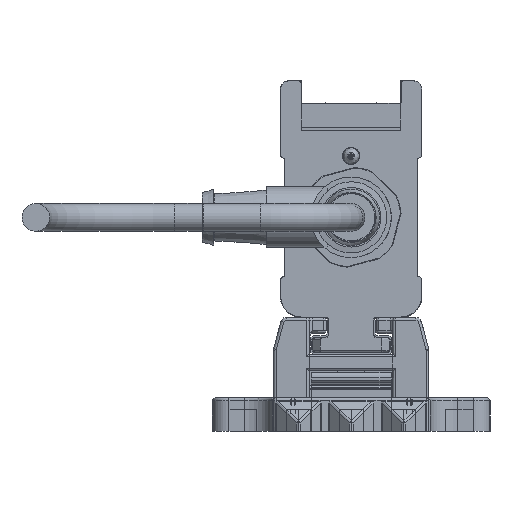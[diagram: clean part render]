
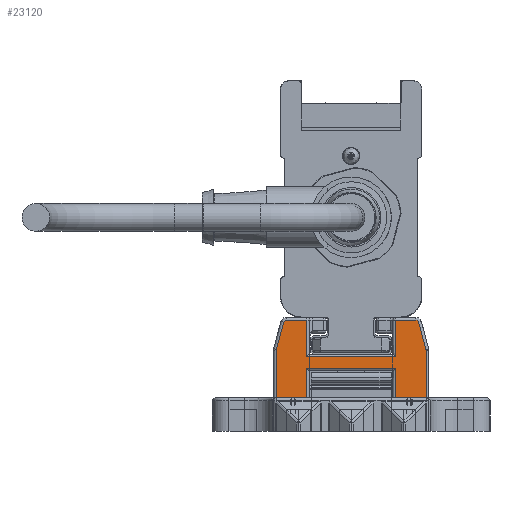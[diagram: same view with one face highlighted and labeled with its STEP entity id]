
A CAD part, left-side view. The second image highlights one B-rep face of the part: STEP entity #23120.
In plain terms, the highlighted planar face has unit normal (-1, 0, 0).
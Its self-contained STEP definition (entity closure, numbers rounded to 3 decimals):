
#23120=ADVANCED_FACE('', (#23130), #23140, .T.);
#117610=AXIS2_PLACEMENT_3D('Ax2Pl3d', #117620, #117630, #117640);
#117850=AXIS2_PLACEMENT_3D('Ax2Pl3d', #117860, #117870, #117880);
#122730=AXIS2_PLACEMENT_3D('Ax2Pl3d', #122740, #122750, #122760);
#127810=AXIS2_PLACEMENT_3D('Ax2Pl3d', #127820, #127830, #127840);
#137490=AXIS2_PLACEMENT_3D('Ax2Pl3d', #137500, #137510, #137520);
#453240=CARTESIAN_POINT('', (-747.669,-1686.345,331.37)
);
#117620=CARTESIAN_POINT('HicPkt', (-747.669,-1685.379,
331.111));
#453250=CARTESIAN_POINT('', (-747.669,-1686.379,
331.111));
#453260=CARTESIAN_POINT('', (-747.669,-1685.037,
336.255));
#453280=CARTESIAN_POINT('', (-747.669,-1685.037,
336.255));
#453310=CARTESIAN_POINT('', (-747.669,-1684.554,
336.625));
#117860=CARTESIAN_POINT('HicPkt', (-747.669,-1684.554,
336.125));
#453530=CARTESIAN_POINT('', (-747.669,-1686.379,
322.625));
#453540=CARTESIAN_POINT('', (-747.669,-1680.881,
322.625));
#453550=CARTESIAN_POINT('', (-747.669,-1680.881,
322.625));
#453630=CARTESIAN_POINT('', (-747.669,-1664.881,
322.625));
#453640=CARTESIAN_POINT('', (-747.669,-1659.383,
322.625));
#453650=CARTESIAN_POINT('', (-747.669,-1659.383,
322.625));
#122740=CARTESIAN_POINT('HicPkt', (-747.669,-1661.209,
336.125));
#456120=CARTESIAN_POINT('', (-747.669,-1660.726,
336.255));
#456130=CARTESIAN_POINT('', (-747.669,-1661.209,
336.625));
#456140=CARTESIAN_POINT('', (-747.669,-1680.881,330.025))
;
#456150=CARTESIAN_POINT('', (-747.669,-1664.881,
330.025));
#456160=CARTESIAN_POINT('', (-747.669,-1680.881,330.025))
;
#456320=CARTESIAN_POINT('', (-747.669,-1680.881,
328.005));
#456330=CARTESIAN_POINT('', (-747.669,-1664.881,
328.005));
#456340=CARTESIAN_POINT('', (-747.669,-1664.881,
328.005));
#456350=CARTESIAN_POINT('', (-747.669,-1680.881,
328.005));
#456370=CARTESIAN_POINT('', (-747.669,-1664.881,
322.625));
#456380=CARTESIAN_POINT('', (-747.669,-1664.881,
330.025));
#456390=CARTESIAN_POINT('', (-747.669,-1664.881,336.625)
);
#457240=CARTESIAN_POINT('', (-747.669,-1664.881,336.625)
);
#457250=CARTESIAN_POINT('', (-747.669,-1660.726,
336.255));
#457260=CARTESIAN_POINT('', (-747.669,-1659.417,331.37)
);
#457450=CARTESIAN_POINT('', (-747.669,-1659.383,
331.111));
#457460=CARTESIAN_POINT('', (-747.669,-1659.383,
331.111));
#127820=CARTESIAN_POINT('HicPkt', (-747.669,-1660.383,
331.111));
#458270=CARTESIAN_POINT('', (-747.669,-1686.379,
331.111));
#137500=CARTESIAN_POINT('HicPkt', (-747.669,-1684.554,
336.625));
#460070=CARTESIAN_POINT('', (-747.669,-1680.881,
336.625));
#460080=CARTESIAN_POINT('', (-747.669,-1680.881,
336.625));
#460090=CARTESIAN_POINT('', (-747.669,-1680.881,
336.625));
#522140=CIRCLE('Circle', #117610, 1.);
#522180=CIRCLE('Circle', #117850, 0.5);
#522760=CIRCLE('Circle', #122730, 0.5);
#523290=CIRCLE('Circle', #127810, 1.);
#117630=DIRECTION('Axis', (-1.,0.,
0.));
#117640=DIRECTION('RefDirection', (0.,
0.,-1.));
#730180=DIRECTION('', (0.,0.259,
0.966));
#117870=DIRECTION('Axis', (-1.,0.,
0.));
#117880=DIRECTION('RefDirection', (0.,
0.,-1.));
#730290=DIRECTION('', (0.,1.,0.));
#730330=DIRECTION('', (0.,1.,0.));
#122750=DIRECTION('Axis', (1.,0.,
0.));
#122760=DIRECTION('RefDirection', (0.,
0.,-1.));
#731520=DIRECTION('', (0.,-1.,0.));
#731620=DIRECTION('', (0.,1.,0.));
#731630=DIRECTION('', (0.,0.,1.));
#731650=DIRECTION('', (0.,0.,-1.));
#731660=DIRECTION('', (0.,0.,-1.));
#732090=DIRECTION('', (0.,-1.,0.));
#732100=DIRECTION('', (0.,-0.259,0.966));
#732190=DIRECTION('', (0.,0.,1.));
#127830=DIRECTION('Axis', (1.,0.,
0.));
#127840=DIRECTION('RefDirection', (0.,
0.,-1.));
#732560=DIRECTION('', (0.,0.,1.));
#137510=DIRECTION('Axis', (-1.,0.,
0.));
#137520=DIRECTION('RefDirection', (0.,
0.,-1.));
#733400=DIRECTION('', (0.,1.,0.));
#733410=DIRECTION('', (0.,0.,1.));
#785930=EDGE_CURVE('', #785940, #785920, #522140, .T.);
#785990=EDGE_CURVE('', #785920, #785970, #786000, .T.);
#786060=EDGE_CURVE('', #785970, #786050, #522180, .T.);
#786510=EDGE_CURVE('', #786500, #786520, #786530, .T.);
#786670=EDGE_CURVE('', #786660, #786680, #786690, .T.);
#791030=EDGE_CURVE('', #791040, #791050, #522760, .T.);
#791080=EDGE_CURVE('', #791090, #791100, #791110, .T.);
#791450=EDGE_CURVE('', #791430, #791460, #791470, .T.);
#791500=EDGE_CURVE('', #786520, #791430, #791510, .T.);
#791540=EDGE_CURVE('', #791460, #786660, #791550, .T.);
#791560=EDGE_CURVE('', #791570, #791090, #791580, .T.);
#793400=EDGE_CURVE('', #791050, #791570, #793410, .T.);
#793470=EDGE_CURVE('', #793480, #791040, #793490, .T.);
#793910=EDGE_CURVE('', #786680, #793920, #793930, .T.);
#793950=EDGE_CURVE('', #793920, #793480, #523290, .T.);
#795660=EDGE_CURVE('', #786500, #785940, #795670, .T.);
#799470=EDGE_CURVE('', #786050, #799480, #799490, .T.);
#799500=EDGE_CURVE('', #791100, #799480, #799510, .T.);
#950330=EDGE_LOOP('Edge_loop', (#950340,#950350,#950360,#950370,#950380,
#950390,#950400,#950410,#950420,#950430,#950440,#950450,#950460,#950470,
#950480,#950490,#950500,#950510));
#23130=FACE_OUTER_BOUND('Face_outer_bound', #950330, .T.);
#786000=LINE('Line', #453280, #1078570);
#786530=LINE('Line', #453540, #1078680);
#786690=LINE('Line', #453640, #1078720);
#791110=LINE('Line', #456140, #1079910);
#791470=LINE('Line', #456330, #1080010);
#791510=LINE('Line', #456350, #1080020);
#791550=LINE('Line', #456370, #1080040);
#791580=LINE('Line', #456380, #1080050);
#793410=LINE('Line', #457240, #1080480);
#793490=LINE('Line', #457250, #1080490);
#793930=LINE('Line', #457450, #1080580);
#795670=LINE('Line', #458270, #1080950);
#799490=LINE('Line', #460070, #1081790);
#799510=LINE('Line', #460090, #1081800);
#950340=ORIENTED_EDGE('', *, *, #799470, .T.);
#950350=ORIENTED_EDGE('', *, *, #799500, .F.);
#950360=ORIENTED_EDGE('', *, *, #791080, .F.);
#950370=ORIENTED_EDGE('', *, *, #791560, .F.);
#950380=ORIENTED_EDGE('', *, *, #793400, .F.);
#950390=ORIENTED_EDGE('', *, *, #791030, .F.);
#950400=ORIENTED_EDGE('', *, *, #793470, .F.);
#950410=ORIENTED_EDGE('', *, *, #793950, .F.);
#950420=ORIENTED_EDGE('', *, *, #793910, .F.);
#950430=ORIENTED_EDGE('', *, *, #786670, .F.);
#950440=ORIENTED_EDGE('', *, *, #791540, .F.);
#950450=ORIENTED_EDGE('', *, *, #791450, .F.);
#950460=ORIENTED_EDGE('', *, *, #791500, .F.);
#950470=ORIENTED_EDGE('', *, *, #786510, .F.);
#950480=ORIENTED_EDGE('', *, *, #795660, .T.);
#950490=ORIENTED_EDGE('', *, *, #785930, .T.);
#950500=ORIENTED_EDGE('', *, *, #785990, .T.);
#950510=ORIENTED_EDGE('', *, *, #786060, .T.);
#23140=PLANE('Plane', #137490);
#1078570=VECTOR('', #730180, 5.057);
#1078680=VECTOR('', #730290, 5.498);
#1078720=VECTOR('', #730330, 5.498);
#1079910=VECTOR('', #731520, 16.);
#1080010=VECTOR('', #731620, 16.);
#1080020=VECTOR('', #731630, 5.38);
#1080040=VECTOR('', #731650, 5.38);
#1080050=VECTOR('', #731660, 6.6);
#1080480=VECTOR('', #732090, 3.672);
#1080490=VECTOR('', #732100, 5.057);
#1080580=VECTOR('', #732190, 8.486);
#1080950=VECTOR('', #732560, 8.486);
#1081790=VECTOR('', #733400, 3.672);
#1081800=VECTOR('', #733410, 6.6);
#785920=VERTEX_POINT('', #453240);
#785940=VERTEX_POINT('', #453250);
#785970=VERTEX_POINT('', #453260);
#786050=VERTEX_POINT('', #453310);
#786500=VERTEX_POINT('', #453530);
#786520=VERTEX_POINT('', #453550);
#786660=VERTEX_POINT('', #453630);
#786680=VERTEX_POINT('', #453650);
#791040=VERTEX_POINT('', #456120);
#791050=VERTEX_POINT('', #456130);
#791090=VERTEX_POINT('', #456150);
#791100=VERTEX_POINT('', #456160);
#791430=VERTEX_POINT('', #456320);
#791460=VERTEX_POINT('', #456340);
#791570=VERTEX_POINT('', #456390);
#793480=VERTEX_POINT('', #457260);
#793920=VERTEX_POINT('', #457460);
#799480=VERTEX_POINT('', #460080);
